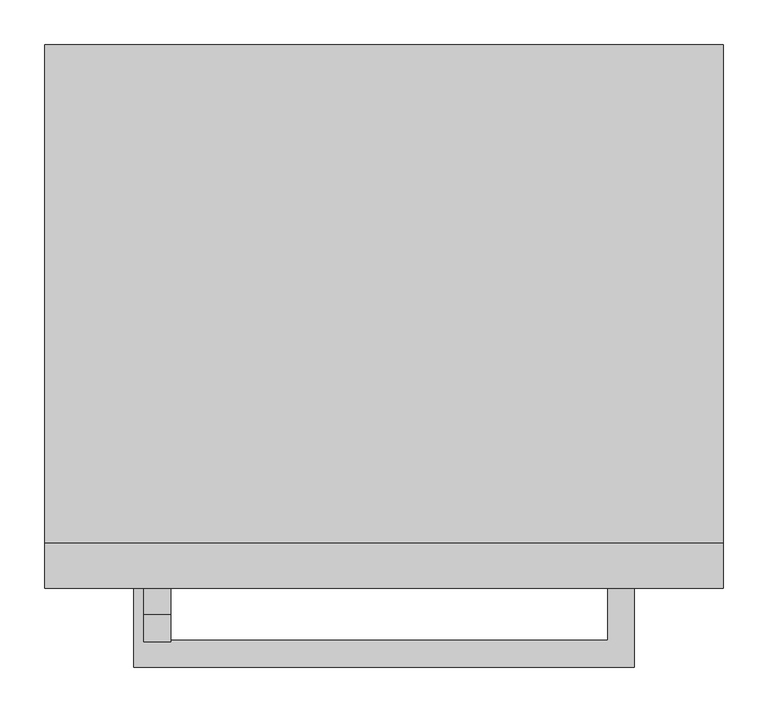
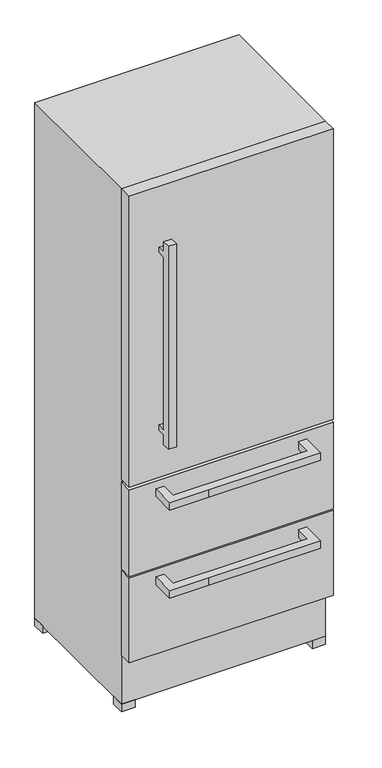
"""IFC4 building model written with IfcOpenShell, lengths in millimetres: proxy geometry, ECBN 6156, ECBN 5066 : ECBN 5066."""

from ifc_helpers import new_model, si_unit, frame, origin, place, context, project, spatial, polyline, outline, extrude, source, transform, mapped, element, save


def specialty_equipment_1f93cfd5(model_context):
    return source(origin(), model_context, "Body", "SweptSolid", [
        extrude(outline(polyline([(-900.0, -728.4695177), (-900.0, -639.8345306), (-870.0, -639.8345306), (-870.0, -698.4695177), (-368.0, -698.4695177), (-368.0, -639.8345306), (-338.0, -639.8345306), (-338.0, -728.4695177), (-755.7952617, -728.4695177), (-900.0, -728.4695177)])), frame((0.0, 0.0, -598.1867483), z_axis=(0.0, 0.0, 1.0), x_axis=(1.0, 0.0, 0.0)), (0.0, 0.0, 1.0), 30.0),
        extrude(outline(polyline([(-900.0, -728.4695177), (-900.0, -639.8345306), (-870.0, -639.8345306), (-870.0, -698.4695177), (-368.0, -698.4695177), (-368.0, -639.8345306), (-338.0, -639.8345306), (-338.0, -728.4695177), (-755.7952617, -728.4695177), (-900.0, -728.4695177)])), frame((0.0, 0.0, -251.1867483), z_axis=(0.0, 0.0, 1.0), x_axis=(1.0, 0.0, 0.0)), (0.0, 0.0, 1.0), 30.0),
        extrude(outline(polyline([(-238.0, -639.8345306), (-1000.0, -639.8345306), (-1000.0, -589.8345306), (-238.0, -589.8345306), (-238.0, -639.8345306)])), frame((0.0, 0.0, -872.1867483), z_axis=(0.0, 0.0, 1.0), x_axis=(1.0, 0.0, 0.0)), (0.0, 0.0, 1.0), 334.0),
        extrude(outline(polyline([(-238.0, -639.8345306), (-1000.0, -639.8345306), (-1000.0, -589.8345306), (-238.0, -589.8345306), (-238.0, -639.8345306)])), frame((0.0, 0.0, -532.1867483), z_axis=(0.0, 0.0, 1.0), x_axis=(1.0, 0.0, 0.0)), (0.0, 0.0, 1.0), 341.0),
        extrude(outline(polyline([(-238.0, -539.8345306), (-238.0, -589.8345306), (-288.0, -589.8345306), (-288.0, -539.8345306), (-238.0, -539.8345306)])), frame((0.0, 0.0, -1095.1867483), z_axis=(0.0, 0.0, 1.0), x_axis=(1.0, 0.0, 0.0)), (0.0, 0.0, 1.0), 30.0),
        extrude(outline(polyline([(-238.0, -29.8345306), (-238.0, -79.8345306), (-288.0, -79.8345306), (-288.0, -29.8345306), (-238.0, -29.8345306)])), frame((0.0, 0.0, -1095.1867483), z_axis=(0.0, 0.0, 1.0), x_axis=(1.0, 0.0, 0.0)), (0.0, 0.0, 1.0), 30.0),
        extrude(outline(polyline([(-950.0, -29.8345306), (-950.0, -79.8345306), (-1000.0, -79.8345306), (-1000.0, -29.8345306), (-950.0, -29.8345306)])), frame((0.0, 0.0, -1095.1867483), z_axis=(0.0, 0.0, 1.0), x_axis=(1.0, 0.0, 0.0)), (0.0, 0.0, 1.0), 30.0),
        extrude(outline(polyline([(-950.0, -539.8345306), (-950.0, -589.8345306), (-1000.0, -589.8345306), (-1000.0, -539.8345306), (-950.0, -539.8345306)])), frame((0.0, 0.0, -1095.1867483), z_axis=(0.0, 0.0, 1.0), x_axis=(1.0, 0.0, 0.0)), (0.0, 0.0, 1.0), 30.0),
        extrude(outline(polyline([(-669.8345306, 726.8132517), (-639.8345306, 726.8132517), (-639.8345306, 706.8132517), (-669.8345306, 706.8132517), (-669.8345306, 26.8132517), (-639.8345306, 26.8132517), (-639.8345306, 6.8132517), (-669.8345306, 6.8132517), (-669.8345306, -33.1867483), (-699.8345306, -33.1867483), (-699.8345306, 766.8132517), (-669.8345306, 766.8132517), (-669.8345306, 726.8132517)])), frame((-888.4104602, 0.0, 0.0), z_axis=(1.0, 0.0, 0.0), x_axis=(0.0, 1.0, 0.0)), (0.0, 0.0, 1.0), 30.0),
        extrude(outline(polyline([(-238.0, -639.8345306), (-1000.0, -639.8345306), (-1000.0, -589.8345306), (-238.0, -589.8345306), (-238.0, -639.8345306)])), frame((0.0, 0.0, -179.1867483), z_axis=(0.0, 0.0, 1.0), x_axis=(1.0, 0.0, 0.0)), (0.0, 0.0, 1.0), 1146.0),
        extrude(outline(polyline([(-238.0, -589.8345306), (-1000.0, -589.8345306), (-1000.0, -29.8345306), (-238.0, -29.8345306), (-238.0, -589.8345306)])), frame((0.0, 0.0, -1065.1867483), z_axis=(0.0, 0.0, 1.0), x_axis=(1.0, 0.0, 0.0)), (0.0, 0.0, 1.0), 2032.0),
    ])


if __name__ == "__main__":
    model = new_model("IFC4")
    model_context = context("Model", 3, world=origin())
    ifc_project = project(units=[si_unit("LENGTHUNIT", "METRE", prefix="MILLI")], contexts=[model_context])
    site = spatial("IfcSite", under=ifc_project)
    building = spatial("IfcBuilding", under=site)
    placement = place(None, origin())
    specialty_equipment_shape = specialty_equipment_1f93cfd5(model_context)
    element("IfcBuildingElementProxy", 1, Name="ECBN 6156, ECBN 5066 : ECBN 5066", ObjectType="ECBN 6156, ECBN 5066 : ECBN 5066", at=placement, inside=building, context=model_context, shape_type="MappedRepresentation", body=[
        mapped(specialty_equipment_shape, transform((0.0, 0.0, 0.0), x_axis=(1.0, 0.0, 0.0), y_axis=(0.0, 1.0, 0.0), z_axis=(0.0, 0.0, 1.0))),
    ])
    save(model, "model.ifc")
